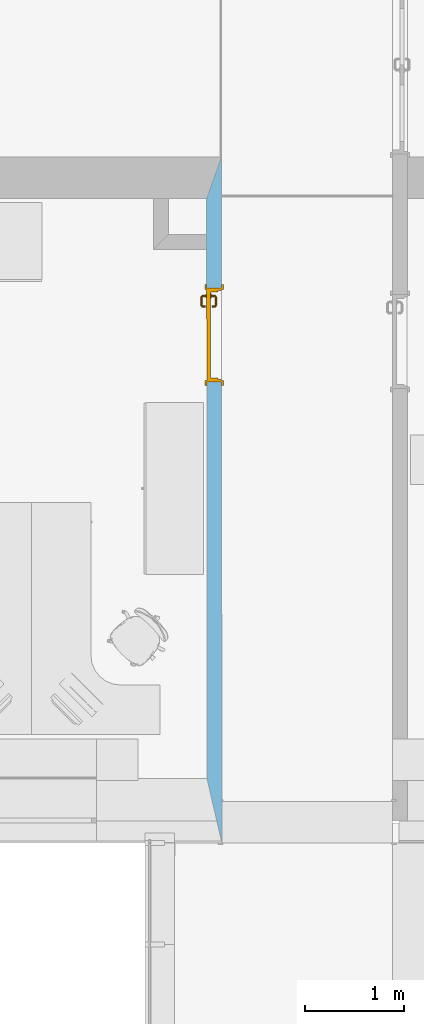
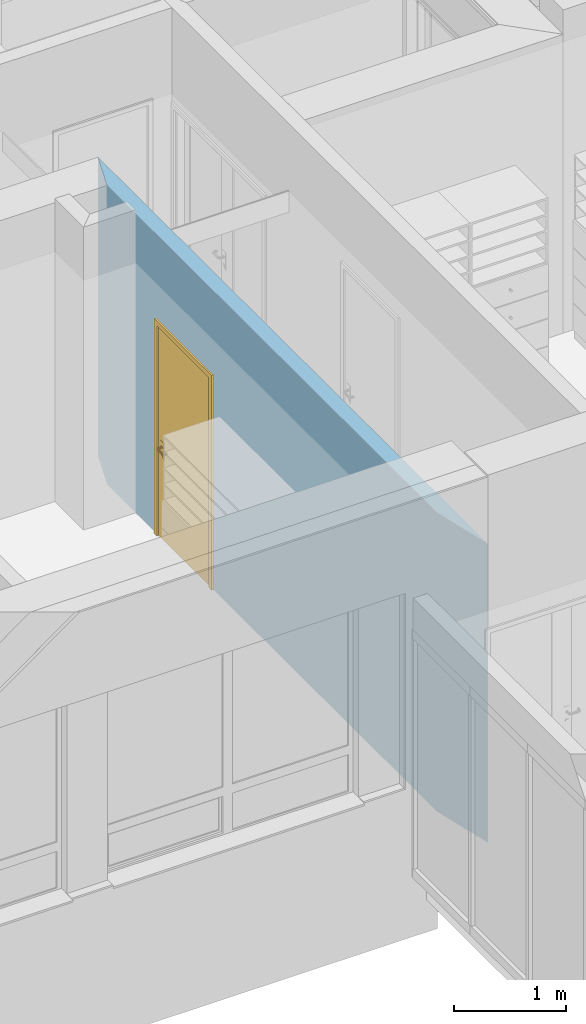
# One storey, part 72 of 194: 1 door, 1 opening, plus 1 element that does not belong to this part.
"""IFC2X3 building model written with IfcOpenShell, lengths in millimetres."""

from ifc_helpers import new_model, entity, si_unit, converted_unit, derived_unit, money_unit, direction, frame, origin_with_axes, origin_2d_with_axis, place, context, subcontext, project, spatial, polyline, rectangle, outline, extrude, open_shell, faceted_brep, surface_model, material, layer, layer_set, layer_usage, type_object, element, fill, save


model = new_model("IFC2X3")

# Units and contexts
model_context = context("Model", 3, precision=1e-05, world=origin_with_axes(), true_north=direction((0.0, 1.0)))
body_context = subcontext(model_context, "Body", "Model", "MODEL_VIEW")
ifc_project = project(units=[si_unit("LENGTHUNIT", "METRE", prefix="MILLI"), si_unit("AREAUNIT", "SQUARE_METRE"), si_unit("VOLUMEUNIT", "CUBIC_METRE"), converted_unit("PLANEANGLEUNIT", "DEGREE", entity("IfcPlaneAngleMeasure", 0.0174532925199), si_unit("PLANEANGLEUNIT", "RADIAN"), dimensions=[0, 0, 0, 0, 0, 0, 0]), si_unit("SOLIDANGLEUNIT", "STERADIAN"), money_unit("EUR"), converted_unit("TIMEUNIT", "Year", entity("IfcTimeMeasure", 31556926.0), si_unit("TIMEUNIT", "SECOND"), dimensions=[0, 0, 1, 0, 0, 0, 0]), si_unit("MASSUNIT", "GRAM", prefix="KILO"), si_unit("THERMODYNAMICTEMPERATUREUNIT", "DEGREE_CELSIUS"), si_unit("LUMINOUSINTENSITYUNIT", "LUMEN"), si_unit("ENERGYUNIT", "JOULE", prefix="MEGA"), derived_unit("THERMALCONDUCTANCEUNIT", [(si_unit("POWERUNIT", "WATT"), 1), (si_unit("LENGTHUNIT", "METRE"), -1), (si_unit("THERMODYNAMICTEMPERATUREUNIT", "KELVIN"), -1)]), derived_unit("SPECIFICHEATCAPACITYUNIT", [(si_unit("ENERGYUNIT", "JOULE"), 1), (si_unit("MASSUNIT", "GRAM", prefix="KILO"), -1), (si_unit("THERMODYNAMICTEMPERATUREUNIT", "KELVIN"), -1)]), derived_unit("MASSDENSITYUNIT", [(si_unit("MASSUNIT", "GRAM", prefix="KILO"), 1), (si_unit("VOLUMEUNIT", "CUBIC_METRE"), -1)])], contexts=[model_context])

# Site, building, storey
site_placement = place(None, origin_with_axes())
site = spatial("IfcSite", under=ifc_project, at=site_placement, Name="Site", CompositionType="ELEMENT")
building_placement = place(site_placement, origin_with_axes())
building = spatial("IfcBuilding", under=site, at=building_placement, Name="Building", CompositionType="ELEMENT")
storey_placement = place(building_placement, frame((0.0, 0.0, 3000.0), z_axis=(0.0, 0.0, 1.0), x_axis=(1.0, 0.0, 0.0)))
storey = spatial("IfcBuildingStorey", under=building, at=storey_placement, Name="2 KORRUS", CompositionType="ELEMENT", Elevation=3000.0)

# Wall, opening, door
ifc_material = material(Name="Kivi -Ol.Olev Konstruktsioon")
ifc_layer = layer(ifc_material, 150.0, ventilated="UNKNOWN")
ifc_layer_set = layer_set([ifc_layer], Name="ol.olev ss 150")
ifc_layer_usage = layer_usage(ifc_layer_set, "AXIS2", "NEGATIVE", 0.0)
wall_type = type_object("IfcWallType", Name="SW - 022", PredefinedType="NOTDEFINED")
wall_placement = place(storey_placement, frame((38000.74873, 65630.0283559, 0.0), z_axis=(0.0, 0.0, 1.0), x_axis=(0.000614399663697, -0.999999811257, 0.0)))
wall = element("IfcWallStandardCase", 1, at=wall_placement, inside=storey, type_object=wall_type, material=ifc_layer_usage, Name="ol.olev ss 150", context=body_context, shape_type="SweptSolid", body=[
    extrude(outline(polyline([(419.907919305, -150.0), (6290.93226126, -150.0), (6941.00332257, 0.0), (0.0, 0.0), (419.907919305, -150.0)])), origin_with_axes(), (0.0, 0.0, 1.0), 3250.0),
])
opening_placement = place(wall_placement, frame((1801.01198281, 0.0, 0.0), z_axis=(0.0, 0.0, 1.0), x_axis=(1.0, 0.0, 0.0)))
opening = element("IfcOpeningElement", 2, at=opening_placement, cuts=wall, Name="Siseuks * Door 22", context=body_context, shape_type="SweptSolid", body=[
    extrude(rectangle(XDim=950.000000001, YDim=2300.0, at=origin_2d_with_axis()), frame((0.0, 150.0, 1150.0), z_axis=(0.0, 1.0, 0.0), x_axis=(1.0, 0.0, 0.0)), (0.0, 0.0, -1.0), 450.0),
    extrude(rectangle(XDim=1024.0, YDim=2337.0, at=origin_2d_with_axis()), frame((0.0, 0.0, 1168.5), z_axis=(0.0, 1.0, 0.0), x_axis=(1.0, 0.0, 0.0)), (0.0, 0.0, 1.0), 150.0),
    extrude(rectangle(XDim=1024.0, YDim=2337.0, at=origin_2d_with_axis()), frame((-9.09494701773e-10, -150.0, 1168.5), z_axis=(0.0, -1.0, 0.0), x_axis=(1.0, 0.0, 0.0)), (0.0, 0.0, 1.0), 150.0),
])
door_style = type_object("IfcDoorStyle", Name="SU-A221   950×2\xa0300", ConstructionType="NOTDEFINED", OperationType="SINGLE_SWING_LEFT", ParameterTakesPrecedence=False, Sizeable=False)
door_placement = place(opening_placement, frame((474.999999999, 0.0, 0.0), z_axis=(0.0, 0.0, 1.0), x_axis=(-1.0, 0.0, 0.0)))
door = element("IfcDoor", 3, at=door_placement, inside=storey, type_object=door_style, Name="Siseuks * Door 22", OverallHeight=2300.0, OverallWidth=950.0, context=body_context, shape_type="SurfaceModel", body=[
    faceted_brep([(950.0, 34.9999999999, 0.0), (950.000000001, -1.13686837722e-10, 0.0), (925.000000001, -1.13686837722e-10, 0.0), (925.0, 34.9999999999, 0.0), (950.0, 34.9999999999, 2300.0), (950.000000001, -1.13686837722e-10, 2300.0), (925.000000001, -1.13686837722e-10, 2275.0), (925.0, 34.9999999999, 2275.0)], [[[0, 1, 2, 3]], [[4, 5, 1, 0]], [[1, 5, 6, 2]], [[3, 2, 6, 7]], [[0, 3, 7, 4]], [[7, 6, 5, 4]]]),
    faceted_brep([(9.09494701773e-10, 34.9999999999, 2300.0), (0.0, -1.13686837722e-10, 2300.0), (24.9999999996, -1.13686837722e-10, 2275.0), (24.9999999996, 35.0, 2275.0), (9.09494701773e-10, 34.9999999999, 0.0), (0.0, -1.13686837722e-10, 0.0), (24.9999999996, -1.13686837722e-10, 0.0), (24.9999999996, 35.0, 0.0)], [[[0, 1, 2, 3]], [[4, 5, 1, 0]], [[1, 5, 6, 2]], [[3, 2, 6, 7]], [[0, 3, 7, 4]], [[7, 6, 5, 4]]]),
    faceted_brep([(925.0, 34.9999999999, 2275.0), (925.000000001, -1.13686837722e-10, 2275.0), (24.9999999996, -1.13686837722e-10, 2275.0), (24.9999999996, 35.0, 2275.0), (950.0, 34.9999999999, 2300.0), (950.000000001, -1.13686837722e-10, 2300.0), (0.0, -1.13686837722e-10, 2300.0), (9.09494701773e-10, 34.9999999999, 2300.0)], [[[0, 1, 2, 3]], [[4, 5, 1, 0]], [[1, 5, 6, 2]], [[3, 2, 6, 7]], [[0, 3, 7, 4]], [[7, 6, 5, 4]]]),
    faceted_brep([(987.0, -19.0, 0.0), (937.000000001, -19.0000000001, 0.0), (937.000000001, -1.13686837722e-10, 0.0), (987.0, -1.13686837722e-10, 0.0), (987.0, -19.0, 2337.0), (937.000000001, -19.0000000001, 2287.0), (937.000000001, -1.13686837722e-10, 2287.0), (987.0, -1.13686837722e-10, 2337.0)], [[[0, 1, 2, 3]], [[0, 4, 5, 1]], [[1, 5, 6, 2]], [[3, 2, 6, 7]], [[4, 0, 3, 7]], [[5, 4, 7, 6]]]),
    faceted_brep([(-36.9999999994, -19.0000000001, 2337.0), (12.9999999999, -19.0000000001, 2287.0), (12.9999999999, -1.13686837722e-10, 2287.0), (-36.9999999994, -1.13686837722e-10, 2337.0), (-36.9999999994, -19.0000000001, 0.0), (12.9999999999, -19.0000000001, 0.0), (12.9999999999, -1.13686837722e-10, 0.0), (-36.9999999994, -1.13686837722e-10, 0.0)], [[[0, 1, 2, 3]], [[0, 4, 5, 1]], [[1, 5, 6, 2]], [[3, 2, 6, 7]], [[4, 0, 3, 7]], [[5, 4, 7, 6]]]),
    faceted_brep([(987.0, -19.0, 2337.0), (937.000000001, -19.0000000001, 2287.0), (937.000000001, -1.13686837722e-10, 2287.0), (987.0, -1.13686837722e-10, 2337.0), (-36.9999999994, -19.0000000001, 2337.0), (12.9999999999, -19.0000000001, 2287.0), (12.9999999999, -1.13686837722e-10, 2287.0), (-36.9999999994, -1.13686837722e-10, 2337.0)], [[[0, 1, 2, 3]], [[0, 4, 5, 1]], [[1, 5, 6, 2]], [[3, 2, 6, 7]], [[4, 0, 3, 7]], [[5, 4, 7, 6]]]),
    faceted_brep([(987.0, 169.0, 0.0), (987.0, 150.0, 0.0), (937.000000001, 150.0, 0.0), (937.000000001, 169.0, 0.0), (987.0, 169.0, 2337.0), (987.0, 150.0, 2337.0), (937.000000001, 150.0, 2287.0), (937.000000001, 169.0, 2287.0)], [[[0, 1, 2, 3]], [[4, 5, 1, 0]], [[1, 5, 6, 2]], [[3, 2, 6, 7]], [[0, 3, 7, 4]], [[7, 6, 5, 4]]]),
    faceted_brep([(-36.9999999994, 169.0, 2337.0), (-36.9999999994, 150.0, 2337.0), (12.9999999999, 150.0, 2287.0), (12.9999999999, 169.0, 2287.0), (-36.9999999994, 169.0, 0.0), (-36.9999999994, 150.0, 0.0), (12.9999999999, 150.0, 0.0), (12.9999999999, 169.0, 0.0)], [[[0, 1, 2, 3]], [[4, 5, 1, 0]], [[1, 5, 6, 2]], [[3, 2, 6, 7]], [[0, 3, 7, 4]], [[7, 6, 5, 4]]]),
    faceted_brep([(987.0, 169.0, 2337.0), (987.0, 150.0, 2337.0), (937.000000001, 150.0, 2287.0), (937.000000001, 169.0, 2287.0), (-36.9999999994, 169.0, 2337.0), (-36.9999999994, 150.0, 2337.0), (12.9999999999, 150.0, 2287.0), (12.9999999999, 169.0, 2287.0)], [[[0, 1, 2, 3]], [[4, 5, 1, 0]], [[1, 5, 6, 2]], [[3, 2, 6, 7]], [[0, 3, 7, 4]], [[7, 6, 5, 4]]]),
    faceted_brep([(910.000000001, 110.0, 0.0), (910.0, 34.9999999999, 0.0), (910.0, 34.9999999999, 2260.0), (910.000000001, 110.0, 2260.0), (922.0, 110.0, 0.0), (922.0, 150.0, 0.0), (950.000000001, 150.0, 0.0), (950.0, 34.9999999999, 0.0), (950.0, 34.9999999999, 2260.0), (922.0, 110.0, 2260.0), (950.000000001, 150.0, 2260.0), (922.0, 150.0, 2260.0)], [[[0, 1, 2, 3]], [[4, 5, 6, 7, 1, 0]], [[1, 7, 8, 2]], [[9, 3, 2, 8, 10, 11]], [[9, 4, 0, 3]], [[11, 5, 4, 9]], [[11, 10, 6, 5]], [[6, 10, 8, 7]]]),
    faceted_brep([(28.0000000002, 110.0, 2260.0), (28.0000000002, 150.0, 2260.0), (0.0, 150.0, 2260.0), (9.09494701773e-10, 34.9999999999, 2260.0), (40.0000000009, 35.0, 2260.0), (40.0, 110.0, 2260.0), (28.0000000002, 110.0, 0.0), (28.0000000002, 150.0, 0.0), (0.0, 150.0, 0.0), (9.09494701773e-10, 34.9999999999, 0.0), (40.0000000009, 35.0, 0.0), (40.0, 110.0, 0.0)], [[[0, 1, 2, 3, 4, 5]], [[0, 6, 7, 1]], [[7, 8, 2, 1]], [[2, 8, 9, 3]], [[3, 9, 10, 4]], [[5, 4, 10, 11]], [[5, 11, 6, 0]], [[6, 11, 10, 9, 8, 7]]]),
    faceted_brep([(922.0, 150.0, 2272.0), (28.0000000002, 150.0, 2272.0), (28.0000000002, 150.0, 2260.0), (0.0, 150.0, 2260.0), (0.0, 150.0, 2300.0), (950.000000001, 150.0, 2300.0), (950.000000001, 150.0, 2260.0), (922.0, 150.0, 2260.0), (922.0, 110.0, 2272.0), (28.0000000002, 110.0, 2272.0), (28.0000000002, 110.0, 2260.0), (40.0, 110.0, 2260.0), (40.0000000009, 35.0, 2260.0), (9.09494701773e-10, 34.9999999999, 2260.0), (9.09494701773e-10, 34.9999999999, 2300.0), (950.0, 34.9999999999, 2300.0), (950.0, 34.9999999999, 2260.0), (922.0, 110.0, 2260.0), (910.0, 34.9999999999, 2260.0), (910.000000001, 110.0, 2260.0)], [[[0, 1, 2, 3, 4, 5, 6, 7]], [[0, 8, 9, 1]], [[1, 9, 10, 2]], [[10, 11, 12, 13, 3, 2]], [[4, 3, 13, 14]], [[5, 4, 14, 15]], [[6, 5, 15, 16]], [[17, 7, 6, 16, 18, 19]], [[7, 17, 8, 0]], [[10, 9, 8, 17, 19, 11]], [[19, 18, 12, 11]], [[12, 18, 16, 15, 14, 13]]]),
    faceted_brep([(900.5, 110.0, 1060.0), (843.5, 110.0, 1060.0), (843.500000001, 107.0, 1060.0), (900.500000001, 107.0, 1060.0), (900.5, 110.0, 870.0), (843.5, 110.0, 870.0), (843.500000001, 107.0, 870.0), (900.500000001, 107.0, 870.0)], [[[0, 1, 2, 3]], [[0, 4, 5, 1]], [[1, 5, 6, 2]], [[3, 2, 6, 7]], [[4, 0, 3, 7]], [[5, 4, 7, 6]]]),
    surface_model("IfcShellBasedSurfaceModel", [(862.0, 96.9999999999, 1000.0), (864.928932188, 96.9999999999, 992.928932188), (864.928932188, 77.6964393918, 992.928932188), (862.0, 77.9849140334, 1000.0), (872.0, 96.9999999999, 990.0), (872.0, 76.9999999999, 990.0), (863.816790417, 72.1053251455, 992.928932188), (861.057796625, 73.2481377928, 1000.0), (864.928932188, 96.9999999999, 1007.07106781), (864.928932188, 77.6964393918, 1007.07106781), (879.071067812, 96.9999999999, 992.928932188), (879.071067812, 76.3035606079, 992.928932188), (870.477590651, 69.3463313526, 990.0), (861.044179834, 67.9558201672, 992.928932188), (858.932537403, 70.0674625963, 1000.0), (863.816790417, 72.1053251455, 1007.07106781), (872.0, 96.9999999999, 1010.0), (872.0, 76.9999999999, 1010.0), (882.000000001, 97.0, 1000.0), (882.0, 76.0150859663, 1000.0), (877.138390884, 66.5873375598, 992.928932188), (866.142135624, 62.8578643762, 990.0), (856.894674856, 65.1832095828, 992.928932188), (855.751862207, 67.9422033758, 1000.0), (861.044179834, 67.9558201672, 1007.07106781), (870.477590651, 69.3463313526, 1010.0), (879.071067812, 96.9999999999, 1007.07106781), (879.071067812, 76.3035606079, 1007.07106781), (879.897384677, 65.4445249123, 1000.0), (871.240091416, 57.7599085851, 992.928932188), (859.653668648, 58.5224093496, 990.0), (851.303560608, 64.0710678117, 992.928932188), (851.015085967, 67.0, 1000.0), (856.894674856, 65.1832095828, 1007.07106781), (866.142135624, 62.8578643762, 1010.0), (877.138390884, 66.5873375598, 1007.07106781), (873.351733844, 55.648266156, 1000.0), (862.41266244, 51.8616091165, 992.928932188), (852.000000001, 56.9999999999, 990.0), (782.696439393, 64.0710678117, 992.928932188), (782.984914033, 66.9999999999, 1000.0), (851.303560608, 64.0710678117, 1007.07106781), (859.653668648, 58.5224093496, 1010.0), (871.240091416, 57.7599085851, 1007.07106781), (863.555475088, 49.1026153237, 1000.0), (852.696439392, 49.928932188, 992.928932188), (782.0, 56.9999999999, 990.0), (777.105325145, 65.1832095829, 992.928932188), (778.248137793, 67.9422033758, 1000.0), (782.696439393, 64.0710678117, 1007.07106781), (852.000000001, 56.9999999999, 1010.0), (862.41266244, 51.8616091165, 1007.07106781), (852.984914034, 46.9999999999, 1000.0), (781.303560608, 49.928932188, 992.928932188), (774.346331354, 58.5224093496, 990.0), (772.955820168, 67.9558201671, 992.928932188), (775.067462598, 70.0674625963, 1000.0), (777.105325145, 65.1832095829, 1007.07106781), (782.0, 56.9999999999, 1010.0), (852.696439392, 49.928932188, 1007.07106781), (781.015085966, 46.9999999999, 1000.0), (771.587337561, 51.8616091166, 992.928932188), (767.857864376, 62.8578643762, 990.0), (770.183209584, 72.1053251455, 992.928932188), (772.942203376, 73.2481377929, 1000.0), (772.955820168, 67.9558201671, 1007.07106781), (774.346331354, 58.5224093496, 1010.0), (781.303560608, 49.928932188, 1007.07106781), (770.444524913, 49.1026153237, 1000.0), (762.759908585, 57.759908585, 992.928932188), (763.522409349, 69.3463313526, 990.0), (769.071067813, 77.696439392, 992.928932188), (772.0, 77.9849140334, 1000.0), (770.183209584, 72.1053251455, 1007.07106781), (767.857864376, 62.8578643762, 1010.0), (771.587337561, 51.8616091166, 1007.07106781), (760.648266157, 55.6482661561, 1000.0), (756.861609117, 66.5873375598, 992.928932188), (762.000000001, 76.9999999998, 990.0), (769.071067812, 97.0, 992.928932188), (772.000000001, 96.9999999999, 1000.0), (769.071067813, 77.696439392, 1007.07106781), (763.522409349, 69.3463313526, 1010.0), (762.759908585, 57.759908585, 1007.07106781), (754.102615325, 65.4445249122, 1000.0), (754.928932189, 76.3035606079, 992.928932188), (762.000000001, 96.9999999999, 990.0), (754.928932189, 96.9999999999, 992.928932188), (752.0, 97.0, 1000.0), (754.928932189, 96.9999999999, 1007.07106781), (762.000000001, 96.9999999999, 1010.0), (769.071067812, 97.0, 1007.07106781), (762.000000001, 76.9999999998, 1010.0), (756.861609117, 66.5873375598, 1007.07106781), (752.0, 76.0150859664, 1000.0), (754.928932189, 76.3035606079, 1007.07106781)], [open_shell([[[0, 1, 2, 3]], [[1, 4, 5, 2]], [[3, 2, 6, 7]], [[8, 0, 3, 9]], [[4, 10, 11, 5]], [[2, 5, 12, 6]], [[7, 6, 13, 14]], [[9, 3, 7, 15]], [[16, 8, 9, 17]], [[10, 18, 19, 11]], [[5, 11, 20, 12]], [[6, 12, 21, 13]], [[14, 13, 22, 23]], [[15, 7, 14, 24]], [[17, 9, 15, 25]], [[26, 16, 17, 27]], [[18, 26, 27, 19]], [[11, 19, 28, 20]], [[12, 20, 29, 21]], [[13, 21, 30, 22]], [[23, 22, 31, 32]], [[24, 14, 23, 33]], [[25, 15, 24, 34]], [[27, 17, 25, 35]], [[19, 27, 35, 28]], [[20, 28, 36, 29]], [[21, 29, 37, 30]], [[22, 30, 38, 31]], [[32, 31, 39, 40]], [[33, 23, 32, 41]], [[34, 24, 33, 42]], [[35, 25, 34, 43]], [[28, 35, 43, 36]], [[29, 36, 44, 37]], [[30, 37, 45, 38]], [[31, 38, 46, 39]], [[40, 39, 47, 48]], [[41, 32, 40, 49]], [[42, 33, 41, 50]], [[43, 34, 42, 51]], [[36, 43, 51, 44]], [[37, 44, 52, 45]], [[38, 45, 53, 46]], [[39, 46, 54, 47]], [[48, 47, 55, 56]], [[49, 40, 48, 57]], [[50, 41, 49, 58]], [[51, 42, 50, 59]], [[44, 51, 59, 52]], [[45, 52, 60, 53]], [[46, 53, 61, 54]], [[47, 54, 62, 55]], [[56, 55, 63, 64]], [[57, 48, 56, 65]], [[58, 49, 57, 66]], [[59, 50, 58, 67]], [[52, 59, 67, 60]], [[53, 60, 68, 61]], [[54, 61, 69, 62]], [[55, 62, 70, 63]], [[64, 63, 71, 72]], [[65, 56, 64, 73]], [[66, 57, 65, 74]], [[67, 58, 66, 75]], [[60, 67, 75, 68]], [[61, 68, 76, 69]], [[62, 69, 77, 70]], [[63, 70, 78, 71]], [[72, 71, 79, 80]], [[73, 64, 72, 81]], [[74, 65, 73, 82]], [[75, 66, 74, 83]], [[68, 75, 83, 76]], [[69, 76, 84, 77]], [[70, 77, 85, 78]], [[71, 78, 86, 79]], [[80, 79, 86, 87, 88, 89, 90, 91]], [[81, 72, 80, 91]], [[82, 73, 81, 92]], [[83, 74, 82, 93]], [[76, 83, 93, 84]], [[77, 84, 94, 85]], [[78, 85, 87, 86]], [[85, 94, 88, 87]], [[94, 95, 89, 88]], [[95, 92, 90, 89]], [[92, 81, 91, 90]], [[93, 82, 92, 95]], [[84, 93, 95, 94]]])]),
    faceted_brep([(861.607695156, 96.9999999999, 994.0), (860.000000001, 96.9999999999, 1000.0), (859.0, 107.0, 1000.0), (860.741669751, 107.0, 993.5), (866.0, 96.9999999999, 989.607695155), (872.0, 96.9999999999, 988.0), (878.0, 97.0, 989.607695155), (882.392304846, 96.9999999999, 994.0), (884.000000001, 96.9999999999, 1000.0), (882.392304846, 96.9999999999, 1006.0), (878.0, 97.0, 1010.39230485), (872.0, 96.9999999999, 1012.0), (866.0, 96.9999999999, 1010.39230485), (861.607695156, 96.9999999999, 1006.0), (860.741669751, 107.0, 1006.5), (865.5, 107.0, 1011.25833025), (872.0, 107.0, 1013.0), (878.5, 107.0, 1011.25833025), (883.258330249, 107.0, 1006.5), (885.0, 107.0, 1000.0), (883.258330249, 107.0, 993.5), (878.5, 107.0, 988.741669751), (872.0, 107.0, 987.0), (865.5, 107.0, 988.741669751)], [[[0, 1, 2, 3]], [[1, 0, 4, 5, 6, 7, 8, 9, 10, 11, 12, 13]], [[1, 13, 14, 2]], [[2, 14, 15, 16, 17, 18, 19, 20, 21, 22, 23, 3]], [[4, 0, 3, 23]], [[5, 4, 23, 22]], [[6, 5, 22, 21]], [[7, 6, 21, 20]], [[8, 7, 20, 19]], [[9, 8, 19, 18]], [[10, 9, 18, 17]], [[11, 10, 17, 16]], [[12, 11, 16, 15]], [[13, 12, 15, 14]]]),
    faceted_brep([(854.679491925, 103.0, 895.0), (852.0, 103.0, 905.0), (850.000000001, 107.0, 905.0), (852.947441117, 107.0, 894.0), (862.0, 103.0, 887.679491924), (872.0, 103.0, 885.0), (882.000000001, 103.0, 887.679491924), (889.320508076, 103.0, 895.0), (892.0, 103.0, 905.0), (889.320508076, 103.0, 915.0), (882.000000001, 103.0, 922.320508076), (872.0, 103.0, 925.0), (862.0, 103.0, 922.320508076), (854.679491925, 103.0, 915.0), (852.947441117, 107.0, 916.0), (861.0, 107.0, 924.052558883), (872.0, 107.0, 927.0), (883.000000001, 107.0, 924.052558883), (891.052558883, 107.0, 916.0), (894.000000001, 107.0, 905.0), (891.052558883, 107.0, 894.0), (883.000000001, 107.0, 885.947441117), (872.0, 107.0, 883.0), (861.0, 107.0, 885.947441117)], [[[0, 1, 2, 3]], [[1, 0, 4, 5, 6, 7, 8, 9, 10, 11, 12, 13]], [[1, 13, 14, 2]], [[2, 14, 15, 16, 17, 18, 19, 20, 21, 22, 23, 3]], [[4, 0, 3, 23]], [[5, 4, 23, 22]], [[6, 5, 22, 21]], [[7, 6, 21, 20]], [[8, 7, 20, 19]], [[9, 8, 19, 18]], [[10, 9, 18, 17]], [[11, 10, 17, 16]], [[12, 11, 16, 15]], [[13, 12, 15, 14]]]),
    faceted_brep([(867.050252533, 101.0, 909.050252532), (865.000000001, 101.0, 914.0), (864.0, 103.0, 914.0), (866.343145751, 103.0, 908.343145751), (872.000000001, 101.0, 907.0), (876.949747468, 101.0, 909.050252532), (879.0, 101.0, 914.0), (876.949747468, 101.0, 918.949747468), (872.000000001, 101.0, 921.0), (867.050252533, 101.0, 918.949747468), (866.343145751, 103.0, 919.656854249), (872.0, 103.0, 922.0), (877.65685425, 103.0, 919.656854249), (880.0, 103.0, 914.0), (877.65685425, 103.0, 908.343145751), (872.0, 103.0, 906.0)], [[[0, 1, 2, 3]], [[1, 0, 4, 5, 6, 7, 8, 9]], [[1, 9, 10, 2]], [[2, 10, 11, 12, 13, 14, 15, 3]], [[4, 0, 3, 15]], [[5, 4, 15, 14]], [[6, 5, 14, 13]], [[7, 6, 13, 12]], [[8, 7, 12, 11]], [[9, 8, 11, 10]]]),
    faceted_brep([(900.500000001, 150.0, 1060.0), (900.500000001, 153.0, 1060.0), (843.500000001, 153.0, 1060.0), (843.5, 150.0, 1060.0), (900.500000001, 150.0, 870.0), (900.500000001, 153.0, 870.0), (843.500000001, 153.0, 870.0), (843.5, 150.0, 870.0)], [[[0, 1, 2, 3]], [[4, 5, 1, 0]], [[1, 5, 6, 2]], [[3, 2, 6, 7]], [[0, 3, 7, 4]], [[7, 6, 5, 4]]]),
    surface_model("IfcShellBasedSurfaceModel", [(862.0, 163.0, 1000.0), (862.0, 182.015085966, 1000.0), (864.928932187, 182.303560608, 992.928932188), (864.928932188, 163.0, 992.928932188), (864.928932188, 163.0, 1007.07106781), (864.928932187, 182.303560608, 1007.07106781), (861.057796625, 186.751862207, 1000.0), (863.816790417, 187.894674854, 992.928932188), (872.0, 183.0, 990.0), (872.000000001, 163.0, 990.0), (872.000000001, 163.0, 1010.0), (872.0, 183.0, 1010.0), (863.816790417, 187.894674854, 1007.07106781), (858.932537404, 189.932537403, 1000.0), (861.044179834, 192.044179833, 992.928932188), (870.477590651, 190.653668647, 990.0), (879.071067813, 183.696439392, 992.928932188), (879.071067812, 163.0, 992.928932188), (879.071067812, 163.0, 1007.07106781), (879.071067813, 183.696439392, 1007.07106781), (870.477590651, 190.653668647, 1010.0), (861.044179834, 192.044179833, 1007.07106781), (855.751862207, 192.057796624, 1000.0), (856.894674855, 194.816790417, 992.928932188), (866.142135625, 197.142135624, 990.0), (877.138390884, 193.41266244, 992.928932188), (882.000000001, 183.984914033, 1000.0), (882.0, 163.0, 1000.0), (877.138390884, 193.41266244, 1007.07106781), (866.142135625, 197.142135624, 1010.0), (856.894674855, 194.816790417, 1007.07106781), (851.015085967, 193.0, 1000.0), (851.303560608, 195.928932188, 992.928932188), (859.653668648, 201.47759065, 990.0), (871.240091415, 202.240091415, 992.928932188), (879.897384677, 194.555475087, 1000.0), (871.240091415, 202.240091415, 1007.07106781), (859.653668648, 201.47759065, 1010.0), (851.303560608, 195.928932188, 1007.07106781), (782.984914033, 193.0, 1000.0), (782.696439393, 195.928932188, 992.928932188), (852.000000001, 203.0, 990.0), (862.412662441, 208.138390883, 992.928932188), (873.351733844, 204.351733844, 1000.0), (862.412662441, 208.138390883, 1007.07106781), (852.000000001, 203.0, 1010.0), (782.696439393, 195.928932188, 1007.07106781), (778.248137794, 192.057796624, 1000.0), (777.105325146, 194.816790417, 992.928932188), (782.0, 203.0, 990.0), (852.696439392, 210.071067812, 992.928932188), (863.555475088, 210.897384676, 1000.0), (852.696439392, 210.071067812, 1007.07106781), (782.0, 203.0, 1010.0), (777.105325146, 194.816790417, 1007.07106781), (775.067462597, 189.932537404, 1000.0), (772.955820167, 192.044179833, 992.928932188), (774.346331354, 201.47759065, 990.0), (781.303560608, 210.071067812, 992.928932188), (852.984914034, 213.0, 1000.0), (781.303560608, 210.071067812, 1007.07106781), (774.346331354, 201.47759065, 1010.0), (772.955820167, 192.044179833, 1007.07106781), (772.942203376, 186.751862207, 1000.0), (770.183209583, 187.894674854, 992.928932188), (767.857864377, 197.142135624, 990.0), (771.58733756, 208.138390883, 992.928932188), (781.015085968, 213.0, 1000.0), (771.58733756, 208.138390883, 1007.07106781), (767.857864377, 197.142135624, 1010.0), (770.183209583, 187.894674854, 1007.07106781), (772.0, 182.015085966, 1000.0), (769.071067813, 182.303560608, 992.928932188), (763.52240935, 190.653668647, 990.0), (762.759908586, 202.240091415, 992.928932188), (770.444524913, 210.897384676, 1000.0), (762.759908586, 202.240091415, 1007.07106781), (763.52240935, 190.653668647, 1010.0), (769.071067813, 182.303560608, 1007.07106781), (772.000000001, 163.0, 1000.0), (769.071067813, 163.0, 992.928932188), (762.000000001, 183.0, 990.0), (756.861609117, 193.41266244, 992.928932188), (760.648266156, 204.351733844, 1000.0), (756.861609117, 193.41266244, 1007.07106781), (762.000000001, 183.0, 1010.0), (769.071067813, 163.0, 1007.07106781), (762.0, 163.0, 1010.0), (754.928932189, 163.0, 1007.07106781), (752.000000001, 163.0, 1000.0), (754.928932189, 163.0, 992.928932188), (762.0, 163.0, 990.0), (754.928932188, 183.696439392, 992.928932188), (754.102615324, 194.555475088, 1000.0), (754.928932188, 183.696439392, 1007.07106781), (752.0, 183.984914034, 1000.0)], [open_shell([[[0, 1, 2, 3]], [[4, 5, 1, 0]], [[1, 6, 7, 2]], [[3, 2, 8, 9]], [[10, 11, 5, 4]], [[5, 12, 6, 1]], [[6, 13, 14, 7]], [[2, 7, 15, 8]], [[9, 8, 16, 17]], [[18, 19, 11, 10]], [[11, 20, 12, 5]], [[12, 21, 13, 6]], [[13, 22, 23, 14]], [[7, 14, 24, 15]], [[8, 15, 25, 16]], [[17, 16, 26, 27]], [[27, 26, 19, 18]], [[19, 28, 20, 11]], [[20, 29, 21, 12]], [[21, 30, 22, 13]], [[22, 31, 32, 23]], [[14, 23, 33, 24]], [[15, 24, 34, 25]], [[16, 25, 35, 26]], [[26, 35, 28, 19]], [[28, 36, 29, 20]], [[29, 37, 30, 21]], [[30, 38, 31, 22]], [[31, 39, 40, 32]], [[23, 32, 41, 33]], [[24, 33, 42, 34]], [[25, 34, 43, 35]], [[35, 43, 36, 28]], [[36, 44, 37, 29]], [[37, 45, 38, 30]], [[38, 46, 39, 31]], [[39, 47, 48, 40]], [[32, 40, 49, 41]], [[33, 41, 50, 42]], [[34, 42, 51, 43]], [[43, 51, 44, 36]], [[44, 52, 45, 37]], [[45, 53, 46, 38]], [[46, 54, 47, 39]], [[47, 55, 56, 48]], [[40, 48, 57, 49]], [[41, 49, 58, 50]], [[42, 50, 59, 51]], [[51, 59, 52, 44]], [[52, 60, 53, 45]], [[53, 61, 54, 46]], [[54, 62, 55, 47]], [[55, 63, 64, 56]], [[48, 56, 65, 57]], [[49, 57, 66, 58]], [[50, 58, 67, 59]], [[59, 67, 60, 52]], [[60, 68, 61, 53]], [[61, 69, 62, 54]], [[62, 70, 63, 55]], [[63, 71, 72, 64]], [[56, 64, 73, 65]], [[57, 65, 74, 66]], [[58, 66, 75, 67]], [[67, 75, 68, 60]], [[68, 76, 69, 61]], [[69, 77, 70, 62]], [[70, 78, 71, 63]], [[71, 79, 80, 72]], [[64, 72, 81, 73]], [[65, 73, 82, 74]], [[66, 74, 83, 75]], [[75, 83, 76, 68]], [[76, 84, 77, 69]], [[77, 85, 78, 70]], [[78, 86, 79, 71]], [[79, 86, 87, 88, 89, 90, 91, 80]], [[72, 80, 91, 81]], [[73, 81, 92, 82]], [[74, 82, 93, 83]], [[83, 93, 84, 76]], [[84, 94, 85, 77]], [[85, 87, 86, 78]], [[94, 88, 87, 85]], [[95, 89, 88, 94]], [[92, 90, 89, 95]], [[81, 91, 90, 92]], [[82, 92, 95, 93]], [[93, 95, 94, 84]]])]),
    faceted_brep([(861.607695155, 163.0, 994.0), (860.741669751, 153.0, 993.5), (859.0, 153.0, 1000.0), (860.000000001, 163.0, 1000.0), (866.0, 163.0, 989.607695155), (865.5, 153.0, 988.741669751), (872.0, 153.0, 987.0), (878.5, 153.0, 988.741669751), (883.25833025, 153.0, 993.5), (885.0, 153.0, 1000.0), (883.25833025, 153.0, 1006.5), (878.5, 153.0, 1011.25833025), (872.0, 153.0, 1013.0), (865.5, 153.0, 1011.25833025), (860.741669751, 153.0, 1006.5), (861.607695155, 163.0, 1006.0), (866.0, 163.0, 1010.39230485), (872.000000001, 163.0, 1012.0), (878.0, 163.0, 1010.39230485), (882.392304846, 163.0, 1006.0), (884.0, 163.0, 1000.0), (882.392304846, 163.0, 994.0), (878.0, 163.0, 989.607695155), (872.000000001, 163.0, 988.0)], [[[0, 1, 2, 3]], [[4, 5, 1, 0]], [[2, 1, 5, 6, 7, 8, 9, 10, 11, 12, 13, 14]], [[3, 2, 14, 15]], [[3, 15, 16, 17, 18, 19, 20, 21, 22, 23, 4, 0]], [[23, 6, 5, 4]], [[22, 7, 6, 23]], [[21, 8, 7, 22]], [[20, 9, 8, 21]], [[19, 10, 9, 20]], [[18, 11, 10, 19]], [[17, 12, 11, 18]], [[16, 13, 12, 17]], [[15, 14, 13, 16]]]),
    faceted_brep([(854.679491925, 157.0, 895.0), (852.947441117, 153.0, 894.0), (850.0, 153.0, 905.0), (852.0, 157.0, 905.0), (862.0, 157.0, 887.679491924), (861.000000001, 153.0, 885.947441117), (872.0, 153.0, 883.0), (883.0, 153.0, 885.947441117), (891.052558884, 153.0, 894.0), (894.0, 153.0, 905.0), (891.052558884, 153.0, 916.0), (883.0, 153.0, 924.052558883), (872.0, 153.0, 927.0), (861.000000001, 153.0, 924.052558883), (852.947441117, 153.0, 916.0), (854.679491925, 157.0, 915.0), (862.0, 157.0, 922.320508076), (872.0, 157.0, 925.0), (882.000000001, 157.0, 922.320508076), (889.320508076, 157.0, 915.0), (892.0, 157.0, 905.0), (889.320508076, 157.0, 895.0), (882.000000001, 157.0, 887.679491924), (872.0, 157.0, 885.0)], [[[0, 1, 2, 3]], [[4, 5, 1, 0]], [[2, 1, 5, 6, 7, 8, 9, 10, 11, 12, 13, 14]], [[3, 2, 14, 15]], [[3, 15, 16, 17, 18, 19, 20, 21, 22, 23, 4, 0]], [[23, 6, 5, 4]], [[22, 7, 6, 23]], [[21, 8, 7, 22]], [[20, 9, 8, 21]], [[19, 10, 9, 20]], [[18, 11, 10, 19]], [[17, 12, 11, 18]], [[16, 13, 12, 17]], [[15, 14, 13, 16]]]),
    faceted_brep([(867.050252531, 159.0, 909.050252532), (866.343145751, 157.0, 908.343145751), (864.0, 157.0, 914.0), (865.000000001, 159.0, 914.0), (872.0, 159.0, 907.0), (872.0, 157.0, 906.0), (877.65685425, 157.0, 908.343145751), (880.0, 157.0, 914.0), (877.65685425, 157.0, 919.656854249), (872.0, 157.0, 922.0), (866.343145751, 157.0, 919.656854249), (867.050252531, 159.0, 918.949747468), (872.0, 159.0, 921.0), (876.949747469, 159.0, 918.949747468), (879.0, 159.0, 914.0), (876.949747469, 159.0, 909.050252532)], [[[0, 1, 2, 3]], [[4, 5, 1, 0]], [[2, 1, 5, 6, 7, 8, 9, 10]], [[3, 2, 10, 11]], [[3, 11, 12, 13, 14, 15, 4, 0]], [[15, 6, 5, 4]], [[14, 7, 6, 15]], [[13, 8, 7, 14]], [[12, 9, 8, 13]], [[11, 10, 9, 12]]]),
    faceted_brep([(28.0000000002, 150.0, 0.0), (922.0, 150.0, 0.0), (922.0, 110.0, 0.0), (28.0000000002, 110.0, 0.0), (28.0000000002, 150.0, 2272.0), (922.0, 150.0, 2272.0), (922.0, 110.0, 2272.0), (28.0000000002, 110.0, 2272.0)], [[[0, 1, 2, 3]], [[0, 4, 5, 1]], [[1, 5, 6, 2]], [[3, 2, 6, 7]], [[4, 0, 3, 7]], [[5, 4, 7, 6]]]),
])
fill(opening, door)

save(model, "model.ifc")
